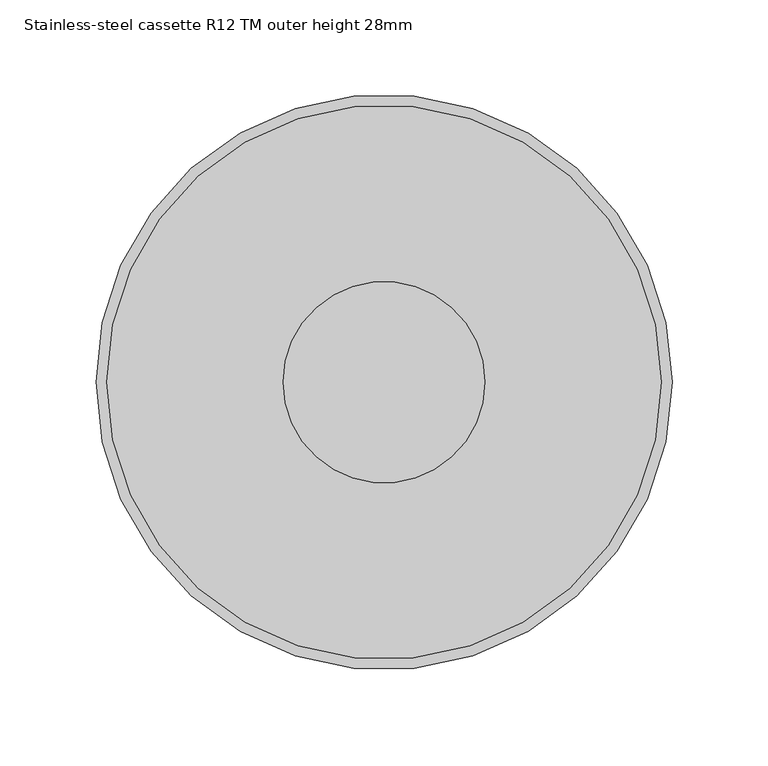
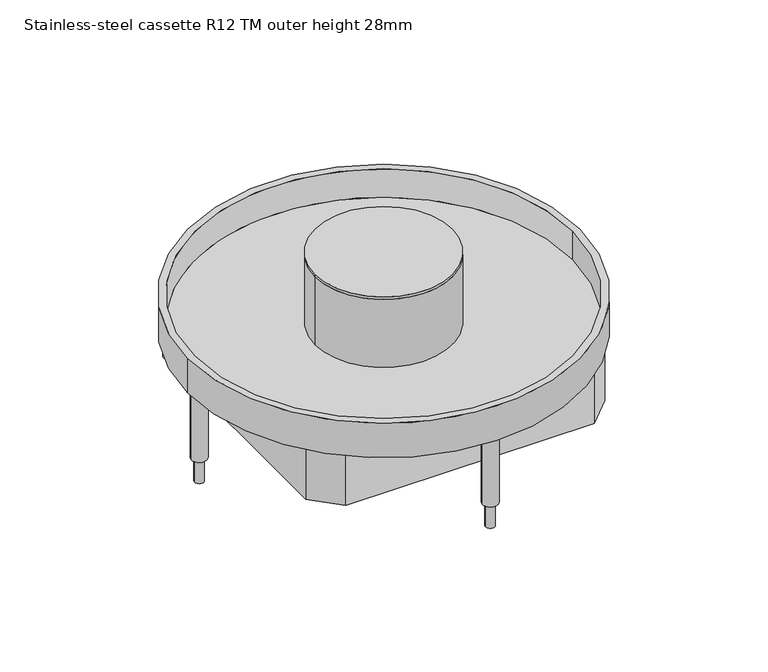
"""IFC4 building model written with IfcOpenShell, lengths in millimetres: proxy geometry, Electrical_Installation_Hager_VE-EE_EKR-Height-adjustable-stainless-steel-cassette-with-tube-mounting-set-round-for-damp-cleaned-floors : Stainless-steel cassette R12 TM outer height 28mm."""

from ifc_helpers import new_model, si_unit, point, frame, frame_2d, origin, origin_2d, place, context, project, spatial, polyline, circle_curve, trimmed, segment, composite_curve, outline, extrude, source, transform, mapped, element, save
from ifc_brep_helpers import plane_surface, cylinder_surface, revolved_surface, advanced_brep


def stainless_steel_cassette_r12_tm_outer_height_28mm_0be30e54(model_context):
    return source(origin(), model_context, "Body", "SolidModel", [
        extrude(outline(composite_curve([segment(trimmed(circle_curve(origin_2d(), 52.5), [point((-52.5, 0.0))], [point((52.5, 0.0))], False, "CARTESIAN"), True, "CONTINUOUS"), segment(trimmed(circle_curve(origin_2d(), 52.5), [point((52.5, 0.0))], [point((-52.5, 0.0))], False, "CARTESIAN"), True, "CONTINUOUS")], self_intersect=False)), frame((0.0, 0.0, 34.011943), z_axis=(0.0, 0.0, 1.0), x_axis=(1.0, 0.0, 0.0)), (0.0, 0.0, 1.0), 1.9818652),
        extrude(outline(composite_curve([segment(trimmed(circle_curve(origin_2d(), 52.5), [point((-52.5, 0.0))], [point((52.5, 0.0))], False, "CARTESIAN"), True, "CONTINUOUS"), segment(trimmed(circle_curve(origin_2d(), 52.5), [point((52.5, 0.0))], [point((-52.5, 0.0))], False, "CARTESIAN"), True, "CONTINUOUS")], self_intersect=False), holes=[composite_curve([segment(trimmed(circle_curve(origin_2d(), 40.0), [point((-40.0, 0.0))], [point((40.0, 0.0))], True, "CARTESIAN"), True, "CONTINUOUS"), segment(trimmed(circle_curve(origin_2d(), 40.0), [point((40.0, 0.0))], [point((-40.0, 0.0))], True, "CARTESIAN"), True, "CONTINUOUS")], self_intersect=False)]), frame((0.0, 0.0, -20.988057), z_axis=(0.0, 0.0, 1.0), x_axis=(1.0, 0.0, 0.0)), (0.0, 0.0, 1.0), 55.0),
        extrude(outline(composite_curve([segment(trimmed(circle_curve(frame_2d((-141.3, 0.0)), 3.5), [point((-144.8, 0.0))], [point((-137.8, 0.0))], False, "CARTESIAN"), True, "CONTINUOUS"), segment(trimmed(circle_curve(frame_2d((-141.3, 0.0)), 3.5), [point((-137.8, 0.0))], [point((-144.8, 0.0))], False, "CARTESIAN"), True, "CONTINUOUS")], self_intersect=False)), frame((0.0, 0.0, -100.0), z_axis=(0.0, 0.0, 1.0), x_axis=(1.0, 0.0, 0.0)), (0.0, 0.0, 1.0), 74.011943),
        extrude(outline(composite_curve([segment(trimmed(circle_curve(frame_2d((0.0, 141.3)), 3.5), [point((-3.5, 141.3))], [point((3.5, 141.3))], False, "CARTESIAN"), True, "CONTINUOUS"), segment(trimmed(circle_curve(frame_2d((0.0, 141.3)), 3.5), [point((3.5, 141.3))], [point((-3.5, 141.3))], False, "CARTESIAN"), True, "CONTINUOUS")], self_intersect=False)), frame((0.0, 0.0, -100.0), z_axis=(0.0, 0.0, 1.0), x_axis=(1.0, 0.0, 0.0)), (0.0, 0.0, 1.0), 74.011943),
        extrude(outline(composite_curve([segment(trimmed(circle_curve(frame_2d((141.3, 0.0)), 3.548869), [point((137.751131, 0.0))], [point((144.848869, 0.0))], False, "CARTESIAN"), True, "CONTINUOUS"), segment(trimmed(circle_curve(frame_2d((141.3, 0.0)), 3.548869), [point((144.848869, 0.0))], [point((137.751131, 0.0))], False, "CARTESIAN"), True, "CONTINUOUS")], self_intersect=False)), frame((0.0, 0.0, -100.0), z_axis=(0.0, 0.0, 1.0), x_axis=(1.0, 0.0, 0.0)), (0.0, 0.0, 1.0), 74.011943),
        extrude(outline(composite_curve([segment(trimmed(circle_curve(frame_2d((0.0, -141.3)), 3.5), [point((-3.5, -141.3))], [point((3.5, -141.3))], False, "CARTESIAN"), True, "CONTINUOUS"), segment(trimmed(circle_curve(frame_2d((0.0, -141.3)), 3.5), [point((3.5, -141.3))], [point((-3.5, -141.3))], False, "CARTESIAN"), True, "CONTINUOUS")], self_intersect=False)), frame((0.0, 0.0, -100.0), z_axis=(0.0, 0.0, 1.0), x_axis=(1.0, 0.0, 0.0)), (0.0, 0.0, 1.0), 74.011943),
        advanced_brep(
        [(144.5, 0.0, -20.988057), (-144.5, 0.0, -20.988057), (-40.0, 0.0, -20.988057), (40.0, 0.0, -20.988057), (-150.0, 0.0, -25.988057), (150.0, 0.0, -25.988057), (-40.0, 0.0, -25.988057), (40.0, 0.0, -25.988057), (-150.0, 0.0, 2.011943), (150.0, 0.0, 2.011943), (-144.5, 0.0, 2.011943), (144.5, 0.0, 2.011943)],
        [
            (0, 1, circle_curve(frame((0.0, 0.0, -20.988057), z_axis=(0.0, 0.0, 1.0), x_axis=(1.0, 0.0, 0.0)), 144.5)),
            (1, 0, circle_curve(frame((0.0, 0.0, -20.988057), z_axis=(0.0, 0.0, 1.0), x_axis=(1.0, 0.0, 0.0)), 144.5)),
            (2, 3, circle_curve(frame((0.0, 0.0, -20.988057), z_axis=(0.0, 0.0, -1.0), x_axis=(1.0, 0.0, 0.0)), 40.0)),
            (3, 2, circle_curve(frame((0.0, 0.0, -20.988057), z_axis=(0.0, 0.0, -1.0), x_axis=(1.0, 0.0, 0.0)), 40.0)),
            (4, 5, circle_curve(frame((0.0, 0.0, -25.988057), z_axis=(0.0, 0.0, -1.0), x_axis=(1.0, 0.0, 0.0)), 150.0)),
            (5, 4, circle_curve(frame((0.0, 0.0, -25.988057), z_axis=(0.0, 0.0, -1.0), x_axis=(1.0, 0.0, 0.0)), 150.0)),
            (6, 7, circle_curve(frame((0.0, 0.0, -25.988057), z_axis=(0.0, 0.0, 1.0), x_axis=(1.0, 0.0, 0.0)), 40.0)),
            (7, 6, circle_curve(frame((0.0, 0.0, -25.988057), z_axis=(0.0, 0.0, 1.0), x_axis=(1.0, 0.0, 0.0)), 40.0)),
            (8, 9, circle_curve(frame((0.0, 0.0, 2.011943), z_axis=(0.0, 0.0, 1.0), x_axis=(1.0, 0.0, 0.0)), 150.0)),
            (9, 8, circle_curve(frame((0.0, 0.0, 2.011943), z_axis=(0.0, 0.0, 1.0), x_axis=(1.0, 0.0, 0.0)), 150.0)),
            (10, 11, circle_curve(frame((0.0, 0.0, 2.011943), z_axis=(0.0, 0.0, -1.0), x_axis=(1.0, 0.0, 0.0)), 144.5)),
            (11, 10, circle_curve(frame((0.0, 0.0, 2.011943), z_axis=(0.0, 0.0, -1.0), x_axis=(1.0, 0.0, 0.0)), 144.5)),
            (8, 4),
            (5, 9),
            (10, 1),
            (0, 11),
            (2, 6),
            (7, 3),
        ],
        [
            plane_surface(frame((144.5, 0.0, -20.988057), z_axis=(0.0, 0.0, 1.0), x_axis=(0.0, 1.0, 0.0))),
            plane_surface(frame((144.5, 0.0, -25.988057), z_axis=(0.0, 0.0, -1.0), x_axis=(0.0, -1.0, 0.0))),
            plane_surface(frame((150.0, 0.0, 2.011943), z_axis=(0.0, 0.0, 1.0), x_axis=(0.0, 1.0, 0.0))),
            cylinder_surface(frame((0.0, 0.0, -25.988057), z_axis=(0.0, 0.0, 1.0), x_axis=(1.0, 0.0, 0.0)), 150.0),
            revolved_surface(polyline([(144.5, 0.0, -20.988057), (144.5, 0.0, 2.011943)]), (0.0, 0.0, 0.0), (0.0, 0.0, -1.0)),
            revolved_surface(polyline([(40.0, 0.0, -25.988057), (40.0, 0.0, -20.988057)]), (0.0, 0.0, 0.0), (0.0, 0.0, -1.0)),
        ],
        [
            (0, [[1, 2], [3, 4]]),
            (1, [[5, 6], [7, 8]]),
            (2, [[9, 10], [11, 12]]),
            (3, [[-9, 13, -6, 14]]),
            (3, [[-10, -14, -5, -13]]),
            (4, [[-11, 15, -1, 16]]),
            (4, [[-12, -16, -2, -15]]),
            (5, [[-3, 17, -8, 18]]),
            (5, [[-4, -18, -7, -17]]),
        ],
    ),
        extrude(outline(polyline([(94.9818914, 114.5), (114.5, 94.9818914), (114.5, -94.9818914), (94.9818914, -114.5), (-94.9818914, -114.5), (-114.5, -94.9818914), (-114.5, 94.9818914), (-94.9818914, 114.5), (94.9818914, 114.5)]), holes=[polyline([(-111.5, 93.8602374), (-111.5, -93.8602374), (-93.8602374, -111.5), (93.8602374, -111.5), (111.5, -93.8602374), (111.5, 93.8602374), (93.8602374, 111.5), (-93.8602374, 111.5), (-111.5, 93.8602374)])]), frame((0.0, 0.0, -66.9258981), z_axis=(0.0, 0.0, 1.0), x_axis=(1.0, 0.0, 0.0)), (0.0, 0.0, 1.0), 40.9378411),
        extrude(outline(composite_curve([segment(trimmed(circle_curve(frame_2d((0.0, 141.3)), 5.9738904), [point((-5.9738904, 141.3))], [point((5.9738904, 141.3))], False, "CARTESIAN"), True, "CONTINUOUS"), segment(trimmed(circle_curve(frame_2d((0.0, 141.3)), 5.9738904), [point((5.9738904, 141.3))], [point((-5.9738904, 141.3))], False, "CARTESIAN"), True, "CONTINUOUS")], self_intersect=False)), frame((0.0, 0.0, -81.0371838), z_axis=(0.0, 0.0, 1.0), x_axis=(1.0, 0.0, 0.0)), (0.0, 0.0, 1.0), 55.0491267),
        extrude(outline(composite_curve([segment(trimmed(circle_curve(frame_2d((141.3, 0.0)), 6.0), [point((135.3, 0.0))], [point((147.3, 0.0))], False, "CARTESIAN"), True, "CONTINUOUS"), segment(trimmed(circle_curve(frame_2d((141.3, 0.0)), 6.0), [point((147.3, 0.0))], [point((135.3, 0.0))], False, "CARTESIAN"), True, "CONTINUOUS")], self_intersect=False)), frame((0.0, 0.0, -81.0371838), z_axis=(0.0, 0.0, 1.0), x_axis=(1.0, 0.0, 0.0)), (0.0, 0.0, 1.0), 55.0491267),
        extrude(outline(composite_curve([segment(trimmed(circle_curve(frame_2d((0.0, -141.3)), 6.0), [point((-6.0, -141.3))], [point((6.0, -141.3))], False, "CARTESIAN"), True, "CONTINUOUS"), segment(trimmed(circle_curve(frame_2d((0.0, -141.3)), 6.0), [point((6.0, -141.3))], [point((-6.0, -141.3))], False, "CARTESIAN"), True, "CONTINUOUS")], self_intersect=False)), frame((0.0, 0.0, -81.0371838), z_axis=(0.0, 0.0, 1.0), x_axis=(1.0, 0.0, 0.0)), (0.0, 0.0, 1.0), 55.0491267),
        extrude(outline(composite_curve([segment(trimmed(circle_curve(frame_2d((-141.3, 0.0)), 6.0), [point((-147.3, 0.0))], [point((-135.3, 0.0))], False, "CARTESIAN"), True, "CONTINUOUS"), segment(trimmed(circle_curve(frame_2d((-141.3, 0.0)), 6.0), [point((-135.3, 0.0))], [point((-147.3, 0.0))], False, "CARTESIAN"), True, "CONTINUOUS")], self_intersect=False)), frame((0.0, 0.0, -81.0371838), z_axis=(0.0, 0.0, 1.0), x_axis=(1.0, 0.0, 0.0)), (0.0, 0.0, 1.0), 55.0491267),
    ])


if __name__ == "__main__":
    model = new_model("IFC4")
    model_context = context("Model", 3, world=origin())
    ifc_project = project(units=[si_unit("LENGTHUNIT", "METRE", prefix="MILLI")], contexts=[model_context])
    site = spatial("IfcSite", under=ifc_project)
    building = spatial("IfcBuilding", under=site)
    placement = place(None, origin())
    stainless_steel_cassette_r12_tm_outer_height_28mm_shape = stainless_steel_cassette_r12_tm_outer_height_28mm_0be30e54(model_context)
    element("IfcBuildingElementProxy", 1, Name="Electrical_Installation_Hager_VE-EE_EKR-Height-adjustable-stainless-steel-cassette-with-tube-mounting-set-round-for-damp-cleaned-floors : Stainless-steel cassette R12 TM outer height 28mm", ObjectType="Electrical_Installation_Hager_VE-EE_EKR-Height-adjustable-stainless-steel-cassette-with-tube-mounting-set-round-for-damp-cleaned-floors : Stainless-steel cassette R12 TM outer height 28mm", at=placement, inside=building, context=model_context, shape_type="MappedRepresentation", body=[
        mapped(stainless_steel_cassette_r12_tm_outer_height_28mm_shape, transform((0.0, 0.0, 0.0), x_axis=(1.0, 0.0, 0.0), y_axis=(0.0, 1.0, 0.0), z_axis=(0.0, 0.0, 1.0))),
    ])
    save(model, "model.ifc")
